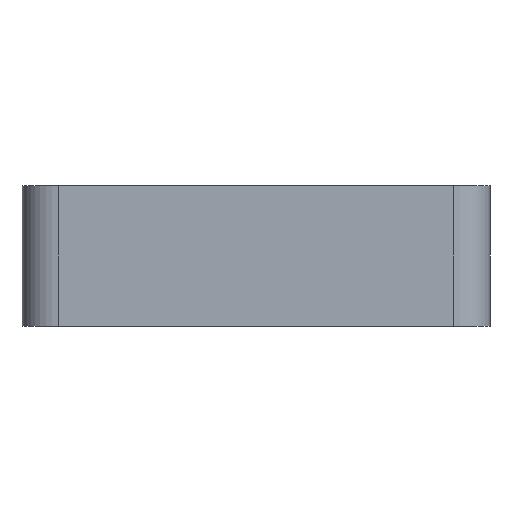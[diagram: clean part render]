
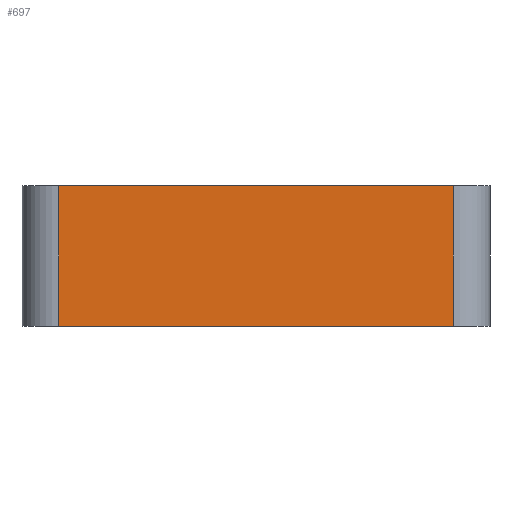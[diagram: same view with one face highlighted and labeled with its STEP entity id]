
A CAD part, front view. The second image highlights one B-rep face of the part: STEP entity #697.
In plain terms, the highlighted planar face has unit normal (0, -1, 0).
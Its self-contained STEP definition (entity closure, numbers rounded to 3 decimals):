
#4 = DIRECTION ( 'NONE',  ( 0., 1., 0. ) ) ;
#17 = VECTOR ( 'NONE', #939, 1000. ) ;
#79 = VECTOR ( 'NONE', #492, 1000. ) ;
#116 = DIRECTION ( 'NONE',  ( 0., 0., 1. ) ) ;
#117 = VERTEX_POINT ( 'NONE', #1106 ) ;
#147 = CARTESIAN_POINT ( 'NONE',  ( 14., -1.6, 10. ) ) ;
#226 = CARTESIAN_POINT ( 'NONE',  ( -16.6, -1.6, 10. ) ) ;
#251 = EDGE_CURVE ( 'NONE', #1409, #929, #460, .T. ) ;
#266 = EDGE_CURVE ( 'NONE', #286, #929, #1117, .T. ) ;
#267 = CARTESIAN_POINT ( 'NONE',  ( -14., -1.6, 10. ) ) ;
#282 = CARTESIAN_POINT ( 'NONE',  ( -16.6, -1.6, 0. ) ) ;
#286 = VERTEX_POINT ( 'NONE', #384 ) ;
#384 = CARTESIAN_POINT ( 'NONE',  ( -14., -1.6, 10. ) ) ;
#392 = EDGE_CURVE ( 'NONE', #286, #117, #1364, .T. ) ;
#460 = LINE ( 'NONE', #699, #774 ) ;
#462 = ORIENTED_EDGE ( 'NONE', *, *, #392, .T. ) ;
#492 = DIRECTION ( 'NONE',  ( 1., 0., 0. ) ) ;
#530 = FACE_OUTER_BOUND ( 'NONE', #973, .T. ) ;
#673 = EDGE_CURVE ( 'NONE', #117, #1409, #835, .T. ) ;
#697 = ADVANCED_FACE ( 'NONE', ( #530 ), #990, .F. ) ;
#699 = CARTESIAN_POINT ( 'NONE',  ( 14., -1.6, 10. ) ) ;
#774 = VECTOR ( 'NONE', #1144, 1000. ) ;
#789 = DIRECTION ( 'NONE',  ( 1., 0., 0. ) ) ;
#835 = LINE ( 'NONE', #282, #79 ) ;
#921 = ORIENTED_EDGE ( 'NONE', *, *, #251, .T. ) ;
#926 = CARTESIAN_POINT ( 'NONE',  ( 14., -1.6, 0. ) ) ;
#929 = VERTEX_POINT ( 'NONE', #147 ) ;
#939 = DIRECTION ( 'NONE',  ( 0., 0., -1. ) ) ;
#973 = EDGE_LOOP ( 'NONE', ( #1428, #921, #1210, #462 ) ) ;
#990 = PLANE ( 'NONE',  #1255 ) ;
#1002 = VECTOR ( 'NONE', #789, 1000. ) ;
#1006 = CARTESIAN_POINT ( 'NONE',  ( -16.6, -1.6, 10. ) ) ;
#1106 = CARTESIAN_POINT ( 'NONE',  ( -14., -1.6, 0. ) ) ;
#1117 = LINE ( 'NONE', #1006, #1002 ) ;
#1144 = DIRECTION ( 'NONE',  ( 0., 0., 1. ) ) ;
#1210 = ORIENTED_EDGE ( 'NONE', *, *, #266, .F. ) ;
#1255 = AXIS2_PLACEMENT_3D ( 'NONE', #226, #4, #116 ) ;
#1364 = LINE ( 'NONE', #267, #17 ) ;
#1409 = VERTEX_POINT ( 'NONE', #926 ) ;
#1428 = ORIENTED_EDGE ( 'NONE', *, *, #673, .T. ) ;
